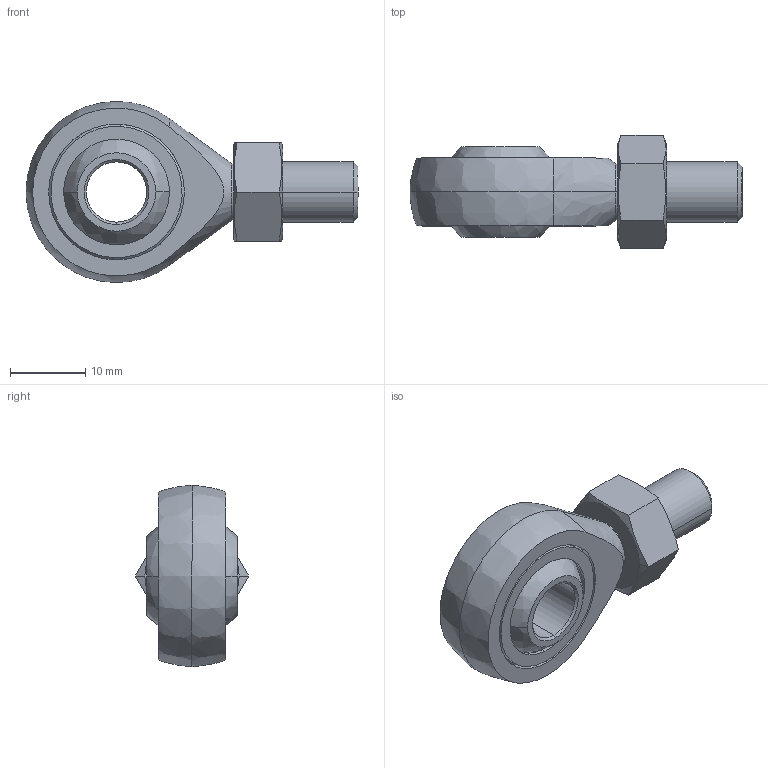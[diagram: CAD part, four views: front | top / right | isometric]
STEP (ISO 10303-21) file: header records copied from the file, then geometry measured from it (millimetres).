
FILE_DESCRIPTION((''),'2;1');
FILE_NAME('KNUCKLE_EYE_S2M','2018-03-14T',('esche'),(''),'CREO PARAMETRIC BY PTC INC, 2017170','CREO PARAMETRIC BY PTC INC, 2017170','');
FILE_SCHEMA(('CONFIG_CONTROL_DESIGN'));
Length unit declared in the file: millimetre
Products named in the file (1): KNUCKLE_EYE_S2M
Bounding box: 44 x 15.01 x 24 mm (x, y, z)
Volume: 5156.6 mm3; surface area: 3665.8 mm2
Topology: 2 solids, 2 shells, 65 faces, 155 edges, 96 vertices
Faces by surface type: bspline 65
Entity records: 3642 total; most frequent: CARTESIAN_POINT 2218, ORIENTED_EDGE 302, DIRECTION 228, EDGE_CURVE 151, VERTEX_POINT 96, AXIS2_PLACEMENT_3D 93, CIRCLE 93, EDGE_LOOP 75
